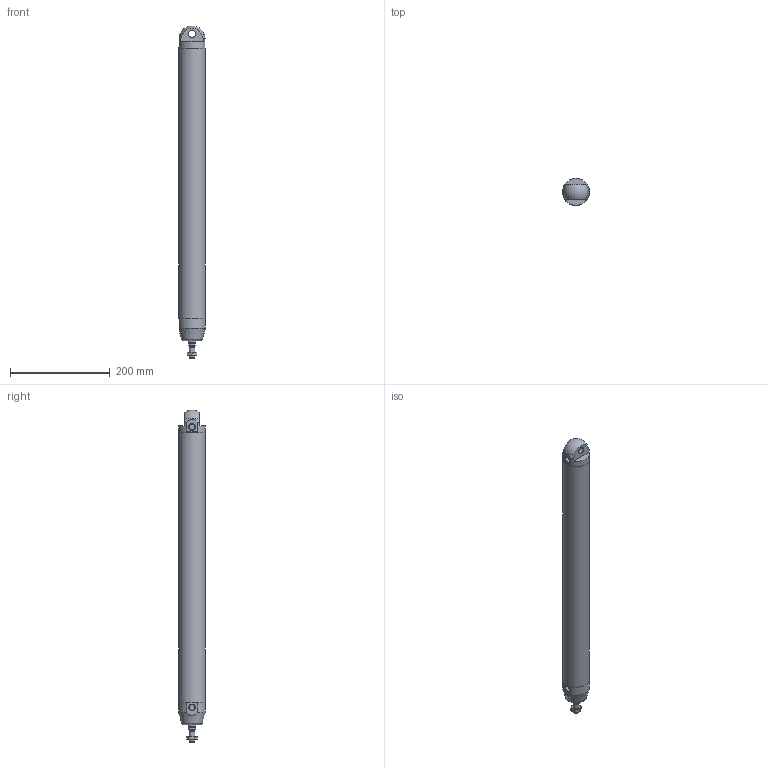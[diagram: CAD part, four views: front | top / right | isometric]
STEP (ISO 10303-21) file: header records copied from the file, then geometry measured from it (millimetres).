
FILE_DESCRIPTION(/* description */ (''),/* implementation_level */ '2;1');
FILE_NAME(/* name */ 'I:\Area Tecnica\Documenti\A-Manieri\_Inventor\12X\12X#A_###_####_#_#\12XAA_050_0500_#_#.stp',/* time_stamp */ '2015-04-22T12:04:12+02:00',/* author */ ('maniean1'),/* organization */ ('Pneumax S.p.A.'),/* preprocessor_version */ 'ST-DEVELOPER v15.2',/* originating_system */ 'Autodesk Inventor 2014',/* authorisation */ '');
FILE_SCHEMA (('AUTOMOTIVE_DESIGN { 1 0 10303 214 3 1 1 }'));
Length unit declared in the file: millimetre
Products named in the file (6): C1250_619-0500; 12X50_613; 12X50_605; S12X50_0500; 12X_50_11; 12XAA_050_0500_#_#
Bounding box: 54 x 54 x 666.83 mm (x, y, z)
Volume: 518041.3 mm3; surface area: 242177.2 mm2
Topology: 5 solids, 5 shells, 59 faces, 126 edges, 81 vertices
Faces by surface type: plane 31, cylinder 14, cone 12, torus 1, sphere 1
Full cylindrical faces by diameter (mm): 10.2 x1, 11.4 x2, 12 x2, 14 x2, 15.6 x1, 16 x1, 50 x2, 54 x3
Entity records: 1560 total; most frequent: CARTESIAN_POINT 288, DIRECTION 266, ORIENTED_EDGE 196, AXIS2_PLACEMENT_3D 120, EDGE_CURVE 98, EDGE_LOOP 94, VERTEX_POINT 76, ADVANCED_FACE 59
